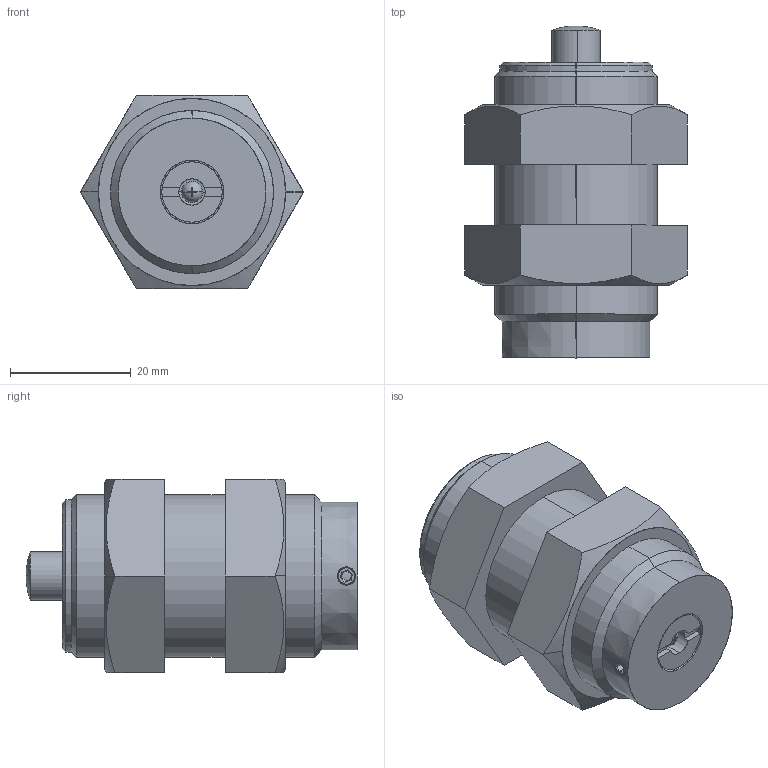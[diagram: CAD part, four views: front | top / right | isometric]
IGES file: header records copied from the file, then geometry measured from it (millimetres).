
Start section: SolidWorks IGES file using analytic representation for surfaces
Bounding box: 36.95 x 55 x 32 mm (x, y, z)
Surface area: 9678.6 mm2 (no closed solid volume)
Topology: 0 solids, 0 shells, 91 faces, 1179 edges, 1178 vertices
Faces by surface type: bspline 51, revolution 40
